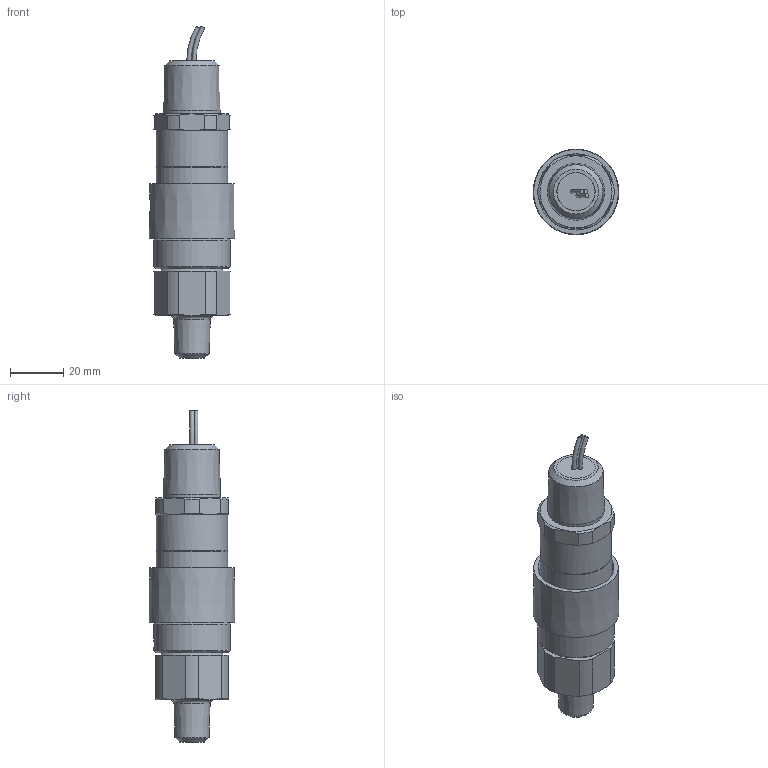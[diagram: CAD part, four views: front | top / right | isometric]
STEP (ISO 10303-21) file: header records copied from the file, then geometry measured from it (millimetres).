
FILE_DESCRIPTION (( 'STEP AP214' ), '1' );
FILE_NAME ('10-C13_C16_V5.STEP', '2025-03-04T21:00:17', ( '' ), ( '' ), 'SwSTEP 2.0', 'SolidWorks 2023', '' );
FILE_SCHEMA (( 'AUTOMOTIVE_DESIGN' ));
Length unit declared in the file: inch
Products named in the file (1): 10-C13_C16_V5
Bounding box: 32.11 x 32.11 x 124.26 mm (x, y, z)
Surface area: 13155.5 mm2 (no closed solid volume)
Topology: 0 solids, 14 shells, 76 faces, 182 edges, 119 vertices
Faces by surface type: cone 27, plane 25, cylinder 19, torus 5
Full cylindrical faces by diameter (mm): 0.851 x1, 3.556 x1, 21.336 x1, 26.721 x1, 26.873 x2, 28.575 x1
Entity records: 2185 total; most frequent: CARTESIAN_POINT 542, DIRECTION 354, ORIENTED_EDGE 276, AXIS2_PLACEMENT_3D 159, EDGE_CURVE 149, VERTEX_POINT 113, EDGE_LOOP 112, FACE_OUTER_BOUND 88
